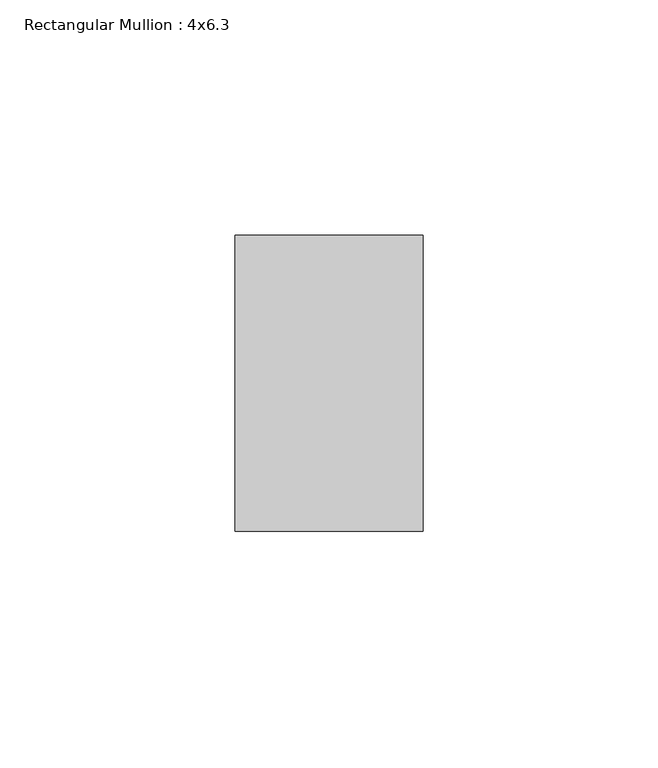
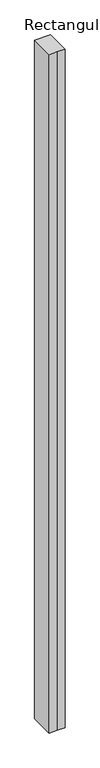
"""IFC4 building model written with IfcOpenShell, lengths in millimetres: member geometry, Rectangular Mullion : 4x6.3."""

import ifcopenshell
import ifcopenshell.guid

model = None  # the IFC model being written
_history = None  # IfcOwnerHistory: only IFC2X3 demands one
_inside = {}  # id of a spatial element -> (the spatial element, [elements in it])
_under = {}  # id of a project, library or spatial element -> (it, [spatial elements below it])
_declared = {}  # id of a project -> (the project, [libraries it declares])
_typed = {}  # id of a type object -> (the type object, [elements of that type])
_made_of = {}  # id of a material, layer set ... -> (it, [elements and type objects made of it])


def new_model(schema):
    """Start an empty IFC model of exactly this schema.

    Asked for "IFC4X3", IfcOpenShell would pick the latest addendum, in which some entities
    have other attributes; the version numbers below select the first issue.
    IFC2X3 requires an IfcOwnerHistory on every rooted entity: one is made here for all.
    """
    global model, _history
    if schema == "IFC4X3":
        model = ifcopenshell.file(schema_version=(4, 3, 0, 0))
    else:
        model = ifcopenshell.file(schema=schema)
    _inside.clear()
    _under.clear()
    _declared.clear()
    _typed.clear()
    _made_of.clear()
    _history = None
    if model.schema == "IFC2X3":
        org = make("IfcOrganization", Name="unknown")
        user = make(
            "IfcPersonAndOrganization",
            ThePerson=make("IfcPerson", FamilyName="unknown"),
            TheOrganization=org,
        )
        app = make(
            "IfcApplication",
            ApplicationDeveloper=org,
            Version="unknown",
            ApplicationFullName="unknown",
            ApplicationIdentifier="unknown",
        )
        _history = make(
            "IfcOwnerHistory",
            OwningUser=user,
            OwningApplication=app,
            ChangeAction="ADDED",
            CreationDate=0,
        )
    return model


def make(cls, **values):
    """One entity of the class cls with the attributes given. An attribute that is None is left unset."""
    return model.create_entity(
        cls, **{name: value for name, value in values.items() if value is not None}
    )


def rooted(cls, **values):
    """An entity with a GlobalId (a new one), such as an element, a storey or a relation."""
    return make(cls, GlobalId=ifcopenshell.guid.new(), OwnerHistory=_history, **values)


def si_unit(unit_type, name, prefix=None):
    """IfcSIUnit, for example si_unit("LENGTHUNIT", "METRE", prefix="MILLI")."""
    return make("IfcSIUnit", UnitType=unit_type, Prefix=prefix, Name=name)


def assignment(units):
    """IfcUnitAssignment: the units of a project."""
    return None if units is None else make("IfcUnitAssignment", Units=units)


def point(xyz):
    """IfcCartesianPoint."""
    return None if xyz is None else make("IfcCartesianPoint", Coordinates=xyz)


def direction(xyz):
    """IfcDirection."""
    return None if xyz is None else make("IfcDirection", DirectionRatios=xyz)


def frame(location, z_axis=None, x_axis=None):
    """IfcAxis2Placement3D, a coordinate frame: its origin and axes. An axis left out is left unset."""
    return make(
        "IfcAxis2Placement3D",
        Location=point(location),
        Axis=direction(z_axis),
        RefDirection=direction(x_axis),
    )


def origin():
    """The frame at (0, 0, 0) with its axes left unset."""
    return frame((0.0, 0.0, 0.0))


def place(relative_to, where):
    """IfcLocalPlacement: puts the frame where relative to a parent placement (None: the world)."""
    return make(
        "IfcLocalPlacement", PlacementRelTo=relative_to, RelativePlacement=where
    )


def context(
    kind, dimensions, precision=None, world=None, true_north=None, identifier=None
):
    """IfcGeometricRepresentationContext, for example the 3D "Model" context."""
    return make(
        "IfcGeometricRepresentationContext",
        ContextIdentifier=identifier,
        ContextType=kind,
        CoordinateSpaceDimension=dimensions,
        Precision=precision,
        WorldCoordinateSystem=world,
        TrueNorth=true_north,
    )


def project(units=None, contexts=None):
    """IfcProject with its units and contexts."""
    return rooted(
        "IfcProject",
        Name="project",
        RepresentationContexts=contexts,
        UnitsInContext=assignment(units),
    )


def spatial(cls, under=None, at=None, **own):
    """A site, building, storey or space (cls), placed at a placement, below another one or the project."""
    s = rooted(cls, ObjectPlacement=at, **own)
    if under is not None:
        _under.setdefault(under.id(), (under, []))[1].append(s)
    return s


def polyline(points):
    """IfcPolyline through the points."""
    return make("IfcPolyline", Points=[point(p) for p in points])


def outline(outer, holes=None, kind="AREA"):
    """IfcArbitraryClosedProfileDef: a profile drawn as a closed curve; with holes, ...WithVoids."""
    if holes is None:
        return make("IfcArbitraryClosedProfileDef", ProfileType=kind, OuterCurve=outer)
    return make(
        "IfcArbitraryProfileDefWithVoids",
        ProfileType=kind,
        OuterCurve=outer,
        InnerCurves=holes,
    )


def extrude(swept, where, along, depth):
    """IfcExtrudedAreaSolid: the profile swept, set in the frame where, extruded along a direction by depth."""
    return make(
        "IfcExtrudedAreaSolid",
        SweptArea=swept,
        Position=where,
        ExtrudedDirection=direction(along),
        Depth=depth,
    )


def shape(context_of_items, identifier, shape_type, items):
    """IfcShapeRepresentation: the items that make up one representation, for example the "Body"."""
    return make(
        "IfcShapeRepresentation",
        ContextOfItems=context_of_items,
        RepresentationIdentifier=identifier,
        RepresentationType=shape_type,
        Items=items,
    )


def source(mapping_origin, context_of_items, identifier, shape_type, items):
    """IfcRepresentationMap: a shape defined once, which mapped items show again and again."""
    return make(
        "IfcRepresentationMap",
        MappingOrigin=mapping_origin,
        MappedRepresentation=shape(context_of_items, identifier, shape_type, items),
    )


def transform(
    local_origin,
    x_axis=None,
    y_axis=None,
    z_axis=None,
    scale=None,
    scale2=None,
    scale3=None,
    uniform=True,
):
    """IfcCartesianTransformationOperator3D, or its non-uniform kind. x_axis, y_axis, z_axis: its Axis1, 2, 3."""
    if uniform:
        return make(
            "IfcCartesianTransformationOperator3D",
            Axis1=direction(x_axis),
            Axis2=direction(y_axis),
            LocalOrigin=point(local_origin),
            Scale=scale,
            Axis3=direction(z_axis),
        )
    return make(
        "IfcCartesianTransformationOperator3DnonUniform",
        Axis1=direction(x_axis),
        Axis2=direction(y_axis),
        LocalOrigin=point(local_origin),
        Scale=scale,
        Axis3=direction(z_axis),
        Scale2=scale2,
        Scale3=scale3,
    )


def mapped(mapping_source, mapping_target):
    """IfcMappedItem: shows the shape of a source again, moved by a transform."""
    return make(
        "IfcMappedItem", MappingSource=mapping_source, MappingTarget=mapping_target
    )


def made_of(thing, what):
    """Note that an element or type object is made of a material, layer set ...; save() writes the relation."""
    if what is not None:
        _made_of.setdefault(what.id(), (what, []))[1].append(thing)
    return thing


def element(
    cls,
    number,
    at=None,
    inside=None,
    cuts=None,
    type_object=None,
    material=None,
    context=None,
    identifier="Body",
    shape_type=None,
    held_by="IfcProductDefinitionShape",
    body=None,
    shapes=None,
    **own,
):
    """One element of the class cls, such as IfcWall. Its Tag is "e" and its number.

    at: its placement. inside: the storey or other place that contains it. cuts: it is an
    opening in that element (IfcRelVoidsElement). A single representation is given by context,
    identifier, shape_type and body (its items); several are given by shapes. held_by: the class
    of the entity that holds the representations. save() writes the other relations.
    """
    e = rooted(cls, Tag="e%d" % number, ObjectPlacement=at, **own)
    if body is not None:
        shapes = [shape(context, identifier, shape_type, body)]
    if shapes is not None:
        e.Representation = make(held_by, Representations=shapes)
    if inside is not None:
        _inside.setdefault(inside.id(), (inside, []))[1].append(e)
    if cuts is not None:
        rooted(
            "IfcRelVoidsElement", RelatingBuildingElement=cuts, RelatedOpeningElement=e
        )
    if type_object is not None:
        _typed.setdefault(type_object.id(), (type_object, []))[1].append(e)
    return made_of(e, material)


def aggregate(whole, parts):
    """IfcRelAggregates: a whole, such as a stair, and the parts it consists of."""
    return rooted("IfcRelAggregates", RelatingObject=whole, RelatedObjects=parts)


def save(model, path):
    """Write the relations noted so far, then the file.

    IfcRelAggregates (storeys below a building ...), IfcRelContainedInSpatialStructure (elements
    in a storey), IfcRelDefinesByType, IfcRelAssociatesMaterial and IfcRelDeclares: one each for
    every whole, place, type object, material and project.
    """
    for whole, parts in _under.values():
        aggregate(whole, parts)
    for where, things in _inside.values():
        rooted(
            "IfcRelContainedInSpatialStructure",
            RelatedElements=things,
            RelatingStructure=where,
        )
    for kind, things in _typed.values():
        rooted("IfcRelDefinesByType", RelatedObjects=things, RelatingType=kind)
    for what, things in _made_of.values():
        rooted("IfcRelAssociatesMaterial", RelatedObjects=things, RelatingMaterial=what)
    for by, libraries in _declared.values():
        rooted("IfcRelDeclares", RelatingContext=by, RelatedDefinitions=libraries)
    model.write(path)


def rectangular_mullion_4x6_3_a9c4e2ba(model_context):
    return source(origin(), model_context, "Body", "SweptSolid", [
        extrude(outline(polyline([(-20.0, 20.0), (-20.0, 83.0), (20.0, 83.0), (20.0, 20.0), (0.0, 20.0), (-20.0, 20.0)])), frame((0.0, 0.0, -1798.1276119), z_axis=(0.0, 0.0, 1.0), x_axis=(1.0, 0.0, 0.0)), (0.0, 0.0, 1.0), 1798.1276119),
    ])


if __name__ == "__main__":
    model = new_model("IFC4")
    model_context = context("Model", 3, world=origin())
    ifc_project = project(units=[si_unit("LENGTHUNIT", "METRE", prefix="MILLI")], contexts=[model_context])
    site = spatial("IfcSite", under=ifc_project)
    building = spatial("IfcBuilding", under=site)
    placement = place(None, origin())
    rectangular_mullion_4x6_3_shape = rectangular_mullion_4x6_3_a9c4e2ba(model_context)
    element("IfcMember", 1, ObjectType="Rectangular Mullion : 4x6.3", at=placement, inside=building, context=model_context, shape_type="MappedRepresentation", body=[
        mapped(rectangular_mullion_4x6_3_shape, transform((0.0, 0.0, 0.0), x_axis=(1.0, 0.0, 0.0), y_axis=(0.0, 1.0, 0.0), z_axis=(0.0, 0.0, 1.0))),
    ])
    save(model, "model.ifc")
